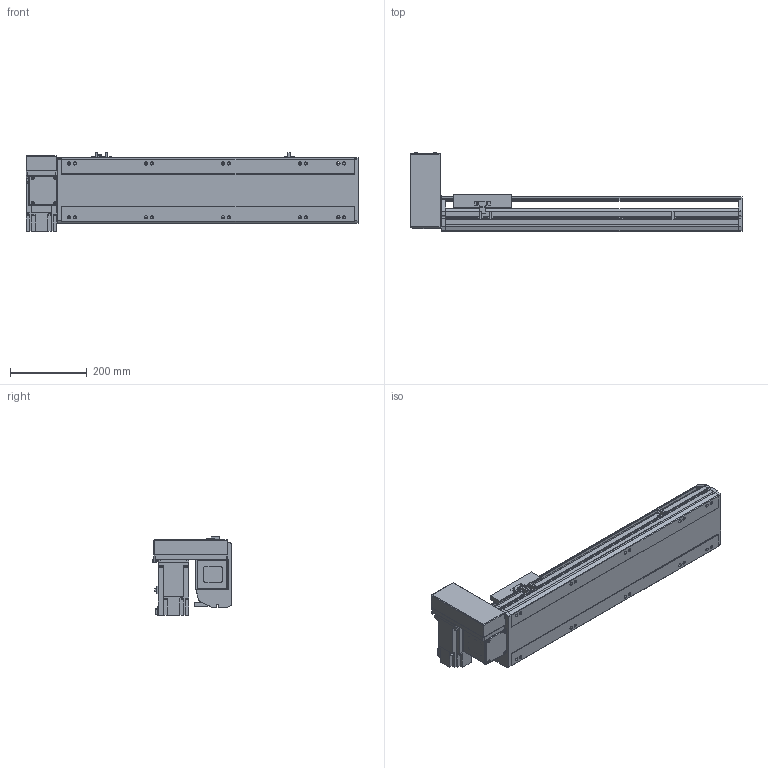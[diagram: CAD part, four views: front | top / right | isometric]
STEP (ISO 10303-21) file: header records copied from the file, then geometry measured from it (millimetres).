
FILE_DESCRIPTION(/* description */ ('STEP AP214'),/* implementation_level */ '2;1');
FILE_NAME(/* name */ 'PBS170-P40-S500-RU-T75-C1-N(0)',/* time_stamp */ '2022-06-08T07:55:56+02:00',/* author */ ('License CC BY-ND 4.0'),/* organization */ ('CADENAS'),/* preprocessor_version */ 'ST-DEVELOPER v18.102',/* originating_system */ 'PARTsolutions',/* authorisation */ ' ');
FILE_SCHEMA (('AUTOMOTIVE_DESIGN {1 0 10303 214 3 1 1}'));
Length unit declared in the file: millimetre
Products named in the file (7): PBS170-P40-S500-RU-T75-C1-N(0); PBS170_sensor; PBS170_plant; PBS170_sliser; T75-p1; PBS170T-RU_motors; PBS170-S500()_body
Assembly tree (8 placements, depth 2):
  PBS170-P40-S500-RU-T75-C1-N(0)
    PBS170_sensor  x3
    PBS170_plant
    PBS170_sliser
    T75-p1
    PBS170T-RU_motors
    PBS170-S500()_body
Bounding box: 863 x 206 x 205.3 mm (x, y, z)
Volume: 7426693.2 mm3; surface area: 1010761.2 mm2
Topology: 8 solids, 8 shells, 1034 faces, 2755 edges, 1796 vertices
Faces by surface type: plane 669, cylinder 315, cone 40, sphere 8, torus 2
Full cylindrical faces by diameter (mm): 3.242 x4, 4 x2, 4.4 x4, 4.5 x6, 4.917 x4, 6 x9, 6.647 x18, 7 x2, 7.5 x4, 8 x8, 8.5 x10, 10 x4, 10.5 x10, 11 x2, 30 x2, 40 x1, 70 x1
Entity records: 29744 total; most frequent: CARTESIAN_POINT 5377, DIRECTION 5090, ORIENTED_EDGE 4848, EDGE_CURVE 2424, AXIS2_PLACEMENT_3D 1747, VERTEX_POINT 1658, LINE 1596, VECTOR 1596
